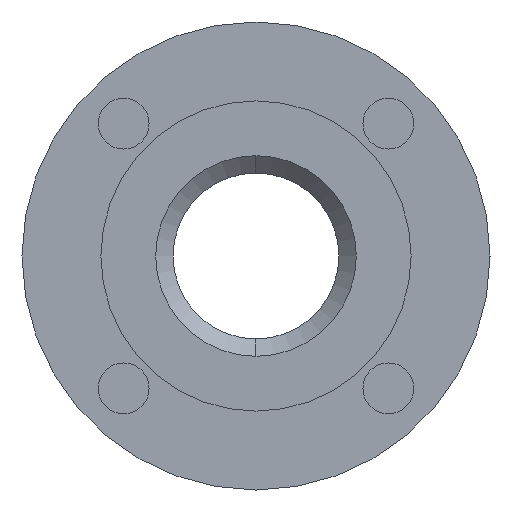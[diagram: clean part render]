
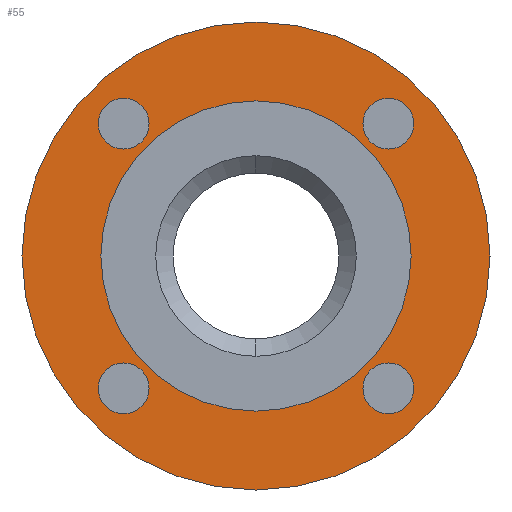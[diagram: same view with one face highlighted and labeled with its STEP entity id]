
A CAD part, left-side view. The second image highlights one B-rep face of the part: STEP entity #55.
In plain terms, the highlighted planar face has unit normal (-1, 0, 0).
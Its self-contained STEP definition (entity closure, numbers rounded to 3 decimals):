
#55=ADVANCED_FACE('',(#319,#320,#321,#322,#323,#324),#318,.F.);
#318=PLANE('',#1358);
#319=FACE_OUTER_BOUND('',#1359,.T.);
#320=FACE_BOUND('',#1360,.T.);
#321=FACE_BOUND('',#1361,.T.);
#322=FACE_BOUND('',#1362,.T.);
#323=FACE_BOUND('',#1363,.T.);
#324=FACE_BOUND('',#1364,.T.);
#1355=CARTESIAN_POINT('',(2.,-161.554,97.5));
#1356=DIRECTION('',(1.,0.,0.));
#1357=DIRECTION('',(0.,0.,-1.));
#1358=AXIS2_PLACEMENT_3D('',#1355,#1356,#1357);
#1359=EDGE_LOOP('',(#2322,#2323));
#1360=EDGE_LOOP('',(#2324,#2325));
#1361=EDGE_LOOP('',(#2326,#2327));
#1362=EDGE_LOOP('',(#2328,#2329));
#1363=EDGE_LOOP('',(#2330,#2331));
#1364=EDGE_LOOP('',(#2332,#2333));
#2322=ORIENTED_EDGE('',*,*,#2814,.T.);
#2323=ORIENTED_EDGE('',*,*,#2815,.T.);
#2324=ORIENTED_EDGE('',*,*,#2816,.F.);
#2325=ORIENTED_EDGE('',*,*,#2817,.F.);
#2326=ORIENTED_EDGE('',*,*,#2818,.F.);
#2327=ORIENTED_EDGE('',*,*,#2819,.F.);
#2328=ORIENTED_EDGE('',*,*,#2820,.F.);
#2329=ORIENTED_EDGE('',*,*,#2821,.F.);
#2330=ORIENTED_EDGE('',*,*,#2822,.F.);
#2331=ORIENTED_EDGE('',*,*,#2823,.F.);
#2332=ORIENTED_EDGE('',*,*,#2824,.F.);
#2333=ORIENTED_EDGE('',*,*,#2825,.F.);
#2814=EDGE_CURVE('',#3516,#3517,#3518,.T.);
#2815=EDGE_CURVE('',#3517,#3516,#3524,.T.);
#2816=EDGE_CURVE('',#3530,#3531,#3532,.T.);
#2817=EDGE_CURVE('',#3531,#3530,#3538,.T.);
#2818=EDGE_CURVE('',#3544,#3545,#3546,.T.);
#2819=EDGE_CURVE('',#3545,#3544,#3552,.T.);
#2820=EDGE_CURVE('',#3558,#3559,#3560,.T.);
#2821=EDGE_CURVE('',#3559,#3558,#3566,.T.);
#2822=EDGE_CURVE('',#3572,#3573,#3574,.T.);
#2823=EDGE_CURVE('',#3573,#3572,#3580,.T.);
#2824=EDGE_CURVE('',#3586,#3587,#3588,.T.);
#2825=EDGE_CURVE('',#3587,#3586,#3594,.T.);
#3516=VERTEX_POINT('',#4982);
#3517=VERTEX_POINT('',#4983);
#3518=CIRCLE('',#4987,87.5);
#3524=CIRCLE('',#4991,87.5);
#3530=VERTEX_POINT('',#4992);
#3531=VERTEX_POINT('',#4993);
#3532=CIRCLE('',#4997,9.5);
#3538=CIRCLE('',#5001,9.5);
#3544=VERTEX_POINT('',#5002);
#3545=VERTEX_POINT('',#5003);
#3546=CIRCLE('',#5007,9.5);
#3552=CIRCLE('',#5011,9.5);
#3558=VERTEX_POINT('',#5012);
#3559=VERTEX_POINT('',#5013);
#3560=CIRCLE('',#5017,9.5);
#3566=CIRCLE('',#5021,9.5);
#3572=VERTEX_POINT('',#5022);
#3573=VERTEX_POINT('',#5023);
#3574=CIRCLE('',#5027,58.);
#3580=CIRCLE('',#5031,58.);
#3586=VERTEX_POINT('',#5032);
#3587=VERTEX_POINT('',#5033);
#3588=CIRCLE('',#5037,9.5);
#3594=CIRCLE('',#5041,9.5);
#4982=CARTESIAN_POINT('',(2.,0.,87.5));
#4983=CARTESIAN_POINT('',(2.,0.,-87.5));
#4984=CARTESIAN_POINT('',(2.,0.,0.));
#4985=DIRECTION('',(-1.,0.,0.));
#4986=DIRECTION('',(0.,0.,1.));
#4987=AXIS2_PLACEMENT_3D('',#4984,#4985,#4986);
#4988=CARTESIAN_POINT('',(2.,0.,0.));
#4989=DIRECTION('',(-1.,0.,0.));
#4990=DIRECTION('',(0.,0.,1.));
#4991=AXIS2_PLACEMENT_3D('',#4988,#4989,#4990);
#4992=CARTESIAN_POINT('',(2.,-49.497,-39.997));
#4993=CARTESIAN_POINT('',(2.,-49.497,-58.997));
#4994=CARTESIAN_POINT('',(2.,-49.497,-49.497));
#4995=DIRECTION('',(-1.,0.,0.));
#4996=DIRECTION('',(0.,0.,-1.));
#4997=AXIS2_PLACEMENT_3D('',#4994,#4995,#4996);
#4998=CARTESIAN_POINT('',(2.,-49.497,-49.497));
#4999=DIRECTION('',(-1.,0.,0.));
#5000=DIRECTION('',(0.,0.,-1.));
#5001=AXIS2_PLACEMENT_3D('',#4998,#4999,#5000);
#5002=CARTESIAN_POINT('',(2.,49.497,-39.997));
#5003=CARTESIAN_POINT('',(2.,49.497,-58.997));
#5004=CARTESIAN_POINT('',(2.,49.497,-49.497));
#5005=DIRECTION('',(-1.,0.,0.));
#5006=DIRECTION('',(0.,0.,-1.));
#5007=AXIS2_PLACEMENT_3D('',#5004,#5005,#5006);
#5008=CARTESIAN_POINT('',(2.,49.497,-49.497));
#5009=DIRECTION('',(-1.,0.,0.));
#5010=DIRECTION('',(0.,0.,-1.));
#5011=AXIS2_PLACEMENT_3D('',#5008,#5009,#5010);
#5012=CARTESIAN_POINT('',(2.,49.497,58.997));
#5013=CARTESIAN_POINT('',(2.,49.497,39.997));
#5014=CARTESIAN_POINT('',(2.,49.497,49.497));
#5015=DIRECTION('',(-1.,0.,0.));
#5016=DIRECTION('',(0.,0.,-1.));
#5017=AXIS2_PLACEMENT_3D('',#5014,#5015,#5016);
#5018=CARTESIAN_POINT('',(2.,49.497,49.497));
#5019=DIRECTION('',(-1.,0.,0.));
#5020=DIRECTION('',(0.,0.,-1.));
#5021=AXIS2_PLACEMENT_3D('',#5018,#5019,#5020);
#5022=CARTESIAN_POINT('',(2.,0.,-58.));
#5023=CARTESIAN_POINT('',(2.,0.,58.));
#5024=CARTESIAN_POINT('',(2.,0.,0.));
#5025=DIRECTION('',(-1.,0.,0.));
#5026=DIRECTION('',(0.,0.,1.));
#5027=AXIS2_PLACEMENT_3D('',#5024,#5025,#5026);
#5028=CARTESIAN_POINT('',(2.,0.,0.));
#5029=DIRECTION('',(-1.,0.,0.));
#5030=DIRECTION('',(0.,0.,1.));
#5031=AXIS2_PLACEMENT_3D('',#5028,#5029,#5030);
#5032=CARTESIAN_POINT('',(2.,-49.497,58.997));
#5033=CARTESIAN_POINT('',(2.,-49.497,39.997));
#5034=CARTESIAN_POINT('',(2.,-49.497,49.497));
#5035=DIRECTION('',(-1.,0.,0.));
#5036=DIRECTION('',(0.,0.,-1.));
#5037=AXIS2_PLACEMENT_3D('',#5034,#5035,#5036);
#5038=CARTESIAN_POINT('',(2.,-49.497,49.497));
#5039=DIRECTION('',(-1.,0.,0.));
#5040=DIRECTION('',(0.,0.,-1.));
#5041=AXIS2_PLACEMENT_3D('',#5038,#5039,#5040);
